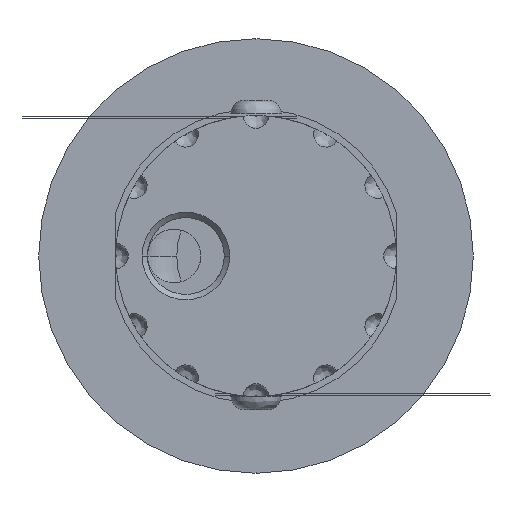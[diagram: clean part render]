
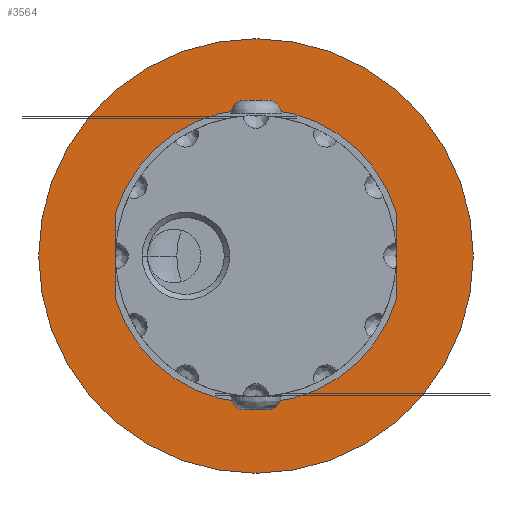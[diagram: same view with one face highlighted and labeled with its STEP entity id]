
A CAD part, front view. The second image highlights one B-rep face of the part: STEP entity #3564.
In plain terms, the highlighted planar face has unit normal (0, -1, 0).
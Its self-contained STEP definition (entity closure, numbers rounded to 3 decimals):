
#3145=CARTESIAN_POINT('',(0.,47.5,0.));
#3146=DIRECTION('',(0.,1.,0.));
#3147=DIRECTION('',(0.955,0.,-0.298));
#3148=AXIS2_PLACEMENT_3D('',#3145,#3146,#3147);
#3172=CARTESIAN_POINT('',(0.,47.5,0.));
#3173=DIRECTION('',(0.,1.,0.));
#3174=DIRECTION('',(-0.955,0.,0.298));
#3175=AXIS2_PLACEMENT_3D('',#3172,#3173,#3174);
#3264=CARTESIAN_POINT('',(0.,47.5,0.));
#3265=DIRECTION('',(0.,-1.,0.));
#3266=DIRECTION('',(0.,0.,-1.));
#3267=AXIS2_PLACEMENT_3D('',#3264,#3265,#3266);
#3400=CARTESIAN_POINT('',(0.,47.5,0.));
#3401=DIRECTION('',(0.,1.,0.));
#3402=DIRECTION('',(0.,0.,-1.));
#3403=AXIS2_PLACEMENT_3D('',#3400,#3401,#3402);
#3433=DIRECTION('',(0.,0.,1.));
#3434=VECTOR('',#3433,13.115);
#3435=CARTESIAN_POINT('',(-21.,47.5,-6.557));
#3436=LINE('',#3435,#3434);
#3437=DIRECTION('',(0.,0.,1.));
#3438=VECTOR('',#3437,13.115);
#3439=CARTESIAN_POINT('',(21.,47.5,-6.557));
#3440=LINE('',#3439,#3438);
#3445=CARTESIAN_POINT('',(21.,47.5,-6.557));
#3446=CARTESIAN_POINT('',(21.,47.5,6.557));
#3447=VERTEX_POINT('',#3445);
#3448=VERTEX_POINT('',#3446);
#3453=CARTESIAN_POINT('',(-21.,47.5,-6.557));
#3454=CARTESIAN_POINT('',(-21.,47.5,6.557));
#3455=VERTEX_POINT('',#3453);
#3456=VERTEX_POINT('',#3454);
#3458=CARTESIAN_POINT('',(0.,47.5,-32.5));
#3460=VERTEX_POINT('',#3458);
#3462=CARTESIAN_POINT('',(0.,47.5,32.5));
#3464=VERTEX_POINT('',#3462);
#3545=CARTESIAN_POINT('',(0.,47.5,0.));
#3546=DIRECTION('',(0.,1.,0.));
#3547=DIRECTION('',(0.,0.,-1.));
#3548=AXIS2_PLACEMENT_3D('',#3545,#3546,#3547);
#3549=PLANE('',#3548);
#3551=ORIENTED_EDGE('',*,*,#3550,.F.);
#3553=ORIENTED_EDGE('',*,*,#3552,.T.);
#3554=EDGE_LOOP('',(#3551,#3553));
#3555=FACE_OUTER_BOUND('',#3554,.F.);
#3556=ORIENTED_EDGE('',*,*,#3538,.F.);
#3558=ORIENTED_EDGE('',*,*,#3557,.F.);
#3559=ORIENTED_EDGE('',*,*,#3520,.F.);
#3561=ORIENTED_EDGE('',*,*,#3560,.T.);
#3562=EDGE_LOOP('',(#3556,#3558,#3559,#3561));
#3563=FACE_BOUND('',#3562,.F.);
#3564=ADVANCED_FACE('',(#3555,#3563),#3549,.F.);
#3149=CIRCLE('',#3148,22.);
#3176=CIRCLE('',#3175,22.);
#3268=CIRCLE('',#3267,32.5);
#3404=CIRCLE('',#3403,32.5);
#3520=EDGE_CURVE('',#3447,#3455,#3149,.T.);
#3538=EDGE_CURVE('',#3456,#3448,#3176,.T.);
#3550=EDGE_CURVE('',#3460,#3464,#3268,.T.);
#3552=EDGE_CURVE('',#3460,#3464,#3404,.T.);
#3557=EDGE_CURVE('',#3455,#3456,#3436,.T.);
#3560=EDGE_CURVE('',#3447,#3448,#3440,.T.);
